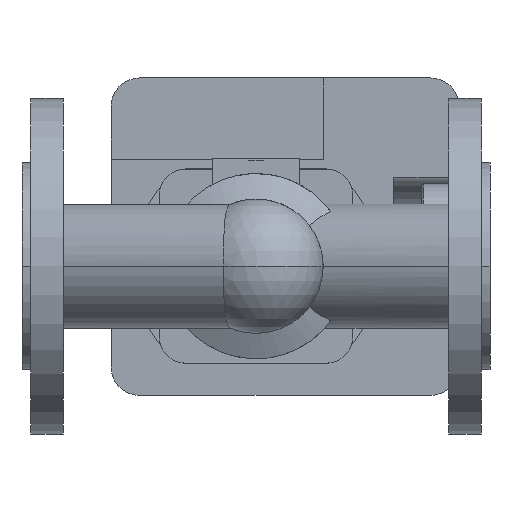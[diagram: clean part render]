
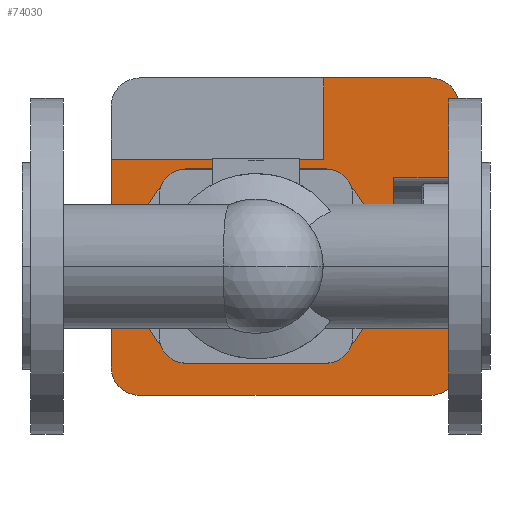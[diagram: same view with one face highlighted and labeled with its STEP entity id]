
A CAD part, front view. The second image highlights one B-rep face of the part: STEP entity #74030.
In plain terms, the highlighted planar face has unit normal (0, -1, 0).
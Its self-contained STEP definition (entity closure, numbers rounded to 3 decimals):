
#59700=CARTESIAN_POINT('',(43.8,491.,-49.5));
#59710=DIRECTION('',(0.,0.,1.));
#59720=VECTOR('',#59710,1.);
#59730=LINE('',#59700,#59720);
#59740=CARTESIAN_POINT('',(43.8,491.,-49.5));
#59750=VERTEX_POINT('',#59740);
#59760=CARTESIAN_POINT('',(43.8,491.,52.5));
#59770=VERTEX_POINT('',#59760);
#59780=EDGE_CURVE('',#59750,#59770,#59730,.T.);
#61110=CARTESIAN_POINT('',(214.8,491.,78.5));
#61120=VERTEX_POINT('',#61110);
#61150=CARTESIAN_POINT('',(200.8,491.,78.5));
#61160=DIRECTION('',(0.,1.,0.));
#61170=DIRECTION('',(0.,0.,1.));
#61180=AXIS2_PLACEMENT_3D('',#61150,#61160,#61170);
#61190=CIRCLE('',#61180,14.);
#61200=CARTESIAN_POINT('',(200.8,491.,92.5));
#61210=VERTEX_POINT('',#61200);
#61220=EDGE_CURVE('',#61210,#61120,#61190,.T.);
#61500=CARTESIAN_POINT('',(57.8,491.,-63.5));
#61510=VERTEX_POINT('',#61500);
#61540=CARTESIAN_POINT('',(200.8,491.,-63.5));
#61550=DIRECTION('',(-1.,0.,0.));
#61560=VECTOR('',#61550,1.);
#61570=LINE('',#61540,#61560);
#61580=CARTESIAN_POINT('',(200.8,491.,-63.5));
#61590=VERTEX_POINT('',#61580);
#61600=EDGE_CURVE('',#61590,#61510,#61570,.T.);
#61850=CARTESIAN_POINT('',(200.8,491.,-49.5));
#61860=DIRECTION('',(0.,1.,0.));
#61870=DIRECTION('',(1.,0.,0.));
#61880=AXIS2_PLACEMENT_3D('',#61850,#61860,#61870);
#61890=CIRCLE('',#61880,14.);
#61900=CARTESIAN_POINT('',(214.8,491.,-49.5));
#61910=VERTEX_POINT('',#61900);
#61920=EDGE_CURVE('',#61910,#61590,#61890,.T.);
#62540=CARTESIAN_POINT('',(214.8,491.,-16.5));
#62550=VERTEX_POINT('',#62540);
#62580=CARTESIAN_POINT('',(164.9,491.,-16.5));
#62590=DIRECTION('',(-1.,0.,0.));
#62600=VECTOR('',#62590,1.);
#62610=LINE('',#62580,#62600);
#62620=CARTESIAN_POINT('',(182.8,491.,-16.5));
#62630=VERTEX_POINT('',#62620);
#62640=EDGE_CURVE('',#62550,#62630,#62610,.T.);
#63270=CARTESIAN_POINT('',(164.9,491.,43.5));
#63280=DIRECTION('',(1.,0.,0.));
#63290=VECTOR('',#63280,1.);
#63300=LINE('',#63270,#63290);
#63310=CARTESIAN_POINT('',(182.8,491.,43.5));
#63320=VERTEX_POINT('',#63310);
#63330=CARTESIAN_POINT('',(214.8,491.,43.5));
#63340=VERTEX_POINT('',#63330);
#63350=EDGE_CURVE('',#63320,#63340,#63300,.T.);
#63700=CARTESIAN_POINT('',(182.8,491.,0.));
#63710=DIRECTION('',(0.,0.,1.));
#63720=VECTOR('',#63710,1.);
#63730=LINE('',#63700,#63720);
#63740=EDGE_CURVE('',#62630,#63320,#63730,.T.);
#63940=CARTESIAN_POINT('',(214.8,491.,78.5));
#63950=DIRECTION('',(0.,0.,-1.));
#63960=VECTOR('',#63950,1.);
#63970=LINE('',#63940,#63960);
#63980=EDGE_CURVE('',#61120,#63340,#63970,.T.);
#64030=CARTESIAN_POINT('',(214.8,491.,78.5));
#64040=DIRECTION('',(0.,0.,-1.));
#64050=VECTOR('',#64040,1.);
#64060=LINE('',#64030,#64050);
#64070=EDGE_CURVE('',#62550,#61910,#64060,.T.);
#64670=CARTESIAN_POINT('',(174.96,491.,11.216));
#64680=VERTEX_POINT('',#64670);
#64710=CARTESIAN_POINT('',(165.,491.,0.));
#64720=DIRECTION('',(0.,1.,0.));
#64730=DIRECTION('',(0.,0.,1.));
#64740=AXIS2_PLACEMENT_3D('',#64710,#64720,#64730);
#64750=CIRCLE('',#64740,15.);
#64760=CARTESIAN_POINT('',(174.96,491.,-11.216));
#64770=VERTEX_POINT('',#64760);
#64780=EDGE_CURVE('',#64680,#64770,#64750,.T.);
#67920=CARTESIAN_POINT('',(157.116,491.,44.128));
#67930=VERTEX_POINT('',#67920);
#67960=CARTESIAN_POINT('',(115.,491.,0.));
#67970=DIRECTION('',(0.,1.,0.));
#67980=DIRECTION('',(0.69,0.,0.723));
#67990=AXIS2_PLACEMENT_3D('',#67960,#67970,#67980);
#68000=CIRCLE('',#67990,61.);
#68010=EDGE_CURVE('',#67930,#64680,#68000,.T.);
#68470=CARTESIAN_POINT('',(55.04,491.,-11.216));
#68480=VERTEX_POINT('',#68470);
#68510=CARTESIAN_POINT('',(65.,491.,0.));
#68520=DIRECTION('',(0.,1.,0.));
#68530=DIRECTION('',(0.,0.,-1.));
#68540=AXIS2_PLACEMENT_3D('',#68510,#68520,#68530);
#68550=CIRCLE('',#68540,15.);
#68560=CARTESIAN_POINT('',(55.04,491.,11.216));
#68570=VERTEX_POINT('',#68560);
#68580=EDGE_CURVE('',#68480,#68570,#68550,.T.);
#69920=CARTESIAN_POINT('',(72.884,491.,-44.128));
#69930=VERTEX_POINT('',#69920);
#69960=CARTESIAN_POINT('',(115.,491.,0.));
#69970=DIRECTION('',(0.,1.,0.));
#69980=DIRECTION('',(-0.69,0.,-0.723));
#69990=AXIS2_PLACEMENT_3D('',#69960,#69970,#69980);
#70000=CIRCLE('',#69990,61.);
#70010=EDGE_CURVE('',#69930,#68480,#70000,.T.);
#72860=CARTESIAN_POINT('',(115.,491.,0.));
#72870=DIRECTION('',(0.,1.,0.));
#72880=DIRECTION('',(0.,0.,1.));
#72890=AXIS2_PLACEMENT_3D('',#72860,#72870,#72880);
#72900=PLANE('',#72890);
#72910=ORIENTED_EDGE('',*,*,#63740,.T.);
#72920=ORIENTED_EDGE('',*,*,#62640,.T.);
#72930=ORIENTED_EDGE('',*,*,#64070,.F.);
#72940=ORIENTED_EDGE('',*,*,#61920,.F.);
#72950=ORIENTED_EDGE('',*,*,#61600,.F.);
#72960=CARTESIAN_POINT('',(57.8,491.,-49.5));
#72970=DIRECTION('',(0.,1.,0.));
#72980=DIRECTION('',(0.,0.,-1.));
#72990=AXIS2_PLACEMENT_3D('',#72960,#72970,#72980);
#73000=CIRCLE('',#72990,14.);
#73010=EDGE_CURVE('',#61510,#59750,#73000,.T.);
#73020=ORIENTED_EDGE('',*,*,#73010,.F.);
#73030=ORIENTED_EDGE('',*,*,#59780,.F.);
#73040=CARTESIAN_POINT('',(78.9,491.,52.5));
#73050=DIRECTION('',(-1.,0.,0.));
#73060=VECTOR('',#73050,1.);
#73070=LINE('',#73040,#73060);
#73080=CARTESIAN_POINT('',(148.3,491.,52.5));
#73090=VERTEX_POINT('',#73080);
#73100=EDGE_CURVE('',#73090,#59770,#73070,.T.);
#73110=ORIENTED_EDGE('',*,*,#73100,.T.);
#73120=CARTESIAN_POINT('',(148.3,491.,26.25));
#73130=DIRECTION('',(0.,0.,-1.));
#73140=VECTOR('',#73130,1.);
#73150=LINE('',#73120,#73140);
#73160=CARTESIAN_POINT('',(148.3,491.,92.5));
#73170=VERTEX_POINT('',#73160);
#73180=EDGE_CURVE('',#73170,#73090,#73150,.T.);
#73190=ORIENTED_EDGE('',*,*,#73180,.T.);
#73200=CARTESIAN_POINT('',(57.8,491.,92.5));
#73210=DIRECTION('',(1.,0.,0.));
#73220=VECTOR('',#73210,1.);
#73230=LINE('',#73200,#73220);
#73240=EDGE_CURVE('',#73170,#61210,#73230,.T.);
#73250=ORIENTED_EDGE('',*,*,#73240,.F.);
#73260=ORIENTED_EDGE('',*,*,#61220,.F.);
#73270=ORIENTED_EDGE('',*,*,#63980,.F.);
#73280=ORIENTED_EDGE('',*,*,#63350,.T.);
#73290=EDGE_LOOP('',(#73280,#73270,#73260,#73250,#73190,#73110,#73030,
#73020,#72950,#72940,#72930,#72920,#72910));
#73300=FACE_OUTER_BOUND('',#73290,.T.);
#73310=ORIENTED_EDGE('',*,*,#68010,.T.);
#73320=CARTESIAN_POINT('',(147.45,491.,34.));
#73330=DIRECTION('',(0.,1.,0.));
#73340=DIRECTION('',(0.,0.,1.));
#73350=AXIS2_PLACEMENT_3D('',#73320,#73330,#73340);
#73360=CIRCLE('',#73350,14.);
#73370=CARTESIAN_POINT('',(147.45,491.,48.));
#73380=VERTEX_POINT('',#73370);
#73390=EDGE_CURVE('',#73380,#67930,#73360,.T.);
#73400=ORIENTED_EDGE('',*,*,#73390,.T.);
#73410=CARTESIAN_POINT('',(98.775,491.,48.));
#73420=DIRECTION('',(1.,0.,0.));
#73430=VECTOR('',#73420,1.);
#73440=LINE('',#73410,#73430);
#73450=CARTESIAN_POINT('',(82.55,491.,48.));
#73460=VERTEX_POINT('',#73450);
#73470=EDGE_CURVE('',#73460,#73380,#73440,.T.);
#73480=ORIENTED_EDGE('',*,*,#73470,.T.);
#73490=CARTESIAN_POINT('',(82.55,491.,34.));
#73500=DIRECTION('',(0.,1.,0.));
#73510=DIRECTION('',(-0.69,0.,0.723));
#73520=AXIS2_PLACEMENT_3D('',#73490,#73500,#73510);
#73530=CIRCLE('',#73520,14.);
#73540=CARTESIAN_POINT('',(72.884,491.,44.128));
#73550=VERTEX_POINT('',#73540);
#73560=EDGE_CURVE('',#73550,#73460,#73530,.T.);
#73570=ORIENTED_EDGE('',*,*,#73560,.T.);
#73580=CARTESIAN_POINT('',(115.,491.,0.));
#73590=DIRECTION('',(0.,1.,0.));
#73600=DIRECTION('',(-0.69,0.,-0.723));
#73610=AXIS2_PLACEMENT_3D('',#73580,#73590,#73600);
#73620=CIRCLE('',#73610,61.);
#73630=EDGE_CURVE('',#68570,#73550,#73620,.T.);
#73640=ORIENTED_EDGE('',*,*,#73630,.T.);
#73650=ORIENTED_EDGE('',*,*,#68580,.T.);
#73660=ORIENTED_EDGE('',*,*,#70010,.T.);
#73670=CARTESIAN_POINT('',(82.55,491.,-34.));
#73680=DIRECTION('',(0.,1.,0.));
#73690=DIRECTION('',(0.,0.,-1.));
#73700=AXIS2_PLACEMENT_3D('',#73670,#73680,#73690);
#73710=CIRCLE('',#73700,14.);
#73720=CARTESIAN_POINT('',(82.55,491.,-48.));
#73730=VERTEX_POINT('',#73720);
#73740=EDGE_CURVE('',#73730,#69930,#73710,.T.);
#73750=ORIENTED_EDGE('',*,*,#73740,.T.);
#73760=CARTESIAN_POINT('',(131.225,491.,-48.));
#73770=DIRECTION('',(-1.,0.,0.));
#73780=VECTOR('',#73770,1.);
#73790=LINE('',#73760,#73780);
#73800=CARTESIAN_POINT('',(147.45,491.,-48.));
#73810=VERTEX_POINT('',#73800);
#73820=EDGE_CURVE('',#73810,#73730,#73790,.T.);
#73830=ORIENTED_EDGE('',*,*,#73820,.T.);
#73840=CARTESIAN_POINT('',(147.45,491.,-34.));
#73850=DIRECTION('',(0.,1.,0.));
#73860=DIRECTION('',(0.69,0.,-0.723));
#73870=AXIS2_PLACEMENT_3D('',#73840,#73850,#73860);
#73880=CIRCLE('',#73870,14.);
#73890=CARTESIAN_POINT('',(157.116,491.,-44.128));
#73900=VERTEX_POINT('',#73890);
#73910=EDGE_CURVE('',#73900,#73810,#73880,.T.);
#73920=ORIENTED_EDGE('',*,*,#73910,.T.);
#73930=CARTESIAN_POINT('',(115.,491.,0.));
#73940=DIRECTION('',(0.,1.,0.));
#73950=DIRECTION('',(0.69,0.,0.723));
#73960=AXIS2_PLACEMENT_3D('',#73930,#73940,#73950);
#73970=CIRCLE('',#73960,61.);
#73980=EDGE_CURVE('',#64770,#73900,#73970,.T.);
#73990=ORIENTED_EDGE('',*,*,#73980,.T.);
#74000=ORIENTED_EDGE('',*,*,#64780,.T.);
#74010=EDGE_LOOP('',(#74000,#73990,#73920,#73830,#73750,#73660,#73650,
#73640,#73570,#73480,#73400,#73310));
#74020=FACE_BOUND('',#74010,.T.);
#74030=ADVANCED_FACE('',(#73300,#74020),#72900,.F.);
